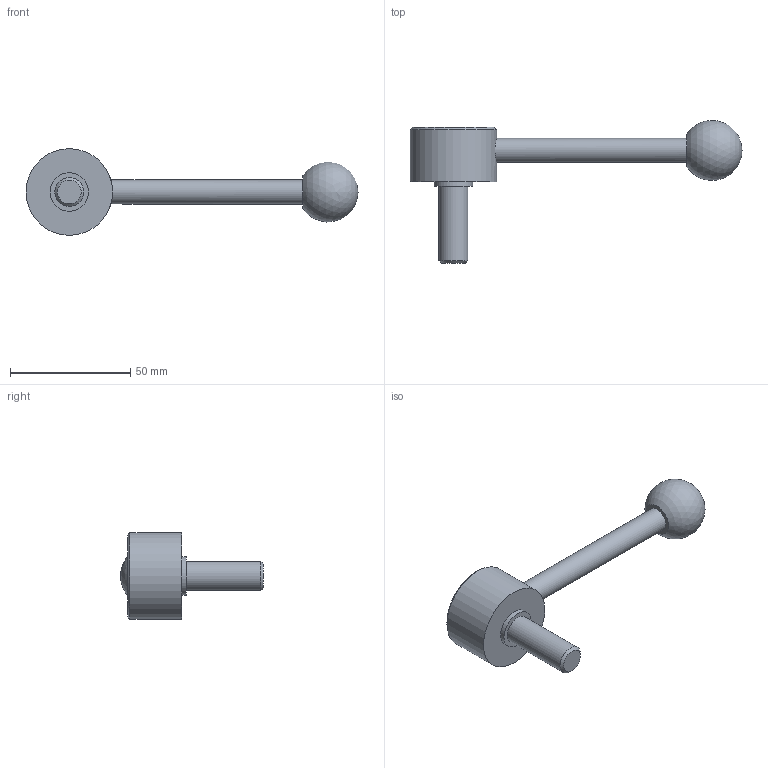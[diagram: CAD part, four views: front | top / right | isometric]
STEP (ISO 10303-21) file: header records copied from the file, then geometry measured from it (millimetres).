
FILE_DESCRIPTION( ( 'STEP AP203' ), '1' );
FILE_NAME( 'C:/Temp/Ganter_Step_05_03_2020/data/2_1/gn_125/gn_125_ms/gn_125_ms_d/Flat Adjustable Lever GN 125-36-M12-32-D.stp', '2020-03-05T11:00:49', ( 'License CC BY-ND 4.0' ), ( 'CADENAS' ), ' ', 'PARTsolutions', ' ' );
FILE_SCHEMA( ( 'CONFIG_CONTROL_DESIGN' ) );
Length unit declared in the file: millimetre
Products named in the file (1): _Flat Adjustable Lever GN 125-36-M12-32-D
Bounding box: 138 x 59.38 x 36 mm (x, y, z)
Volume: 40964.8 mm3; surface area: 10100.9 mm2
Topology: 1 solids, 1 shells, 14 faces, 23 edges, 15 vertices
Faces by surface type: plane 6, cylinder 5, cone 2, sphere 1
Full cylindrical faces by diameter (mm): 10 x1, 12 x1, 16 x1, 26 x1, 36 x1
Entity records: 392 total; most frequent: CARTESIAN_POINT 115, DIRECTION 54, AXIS2_PLACEMENT_3D 27, EDGE_LOOP 26, ORIENTED_EDGE 26, FACE_OUTER_BOUND 19, ADVANCED_FACE 14, VERTEX_POINT 14
